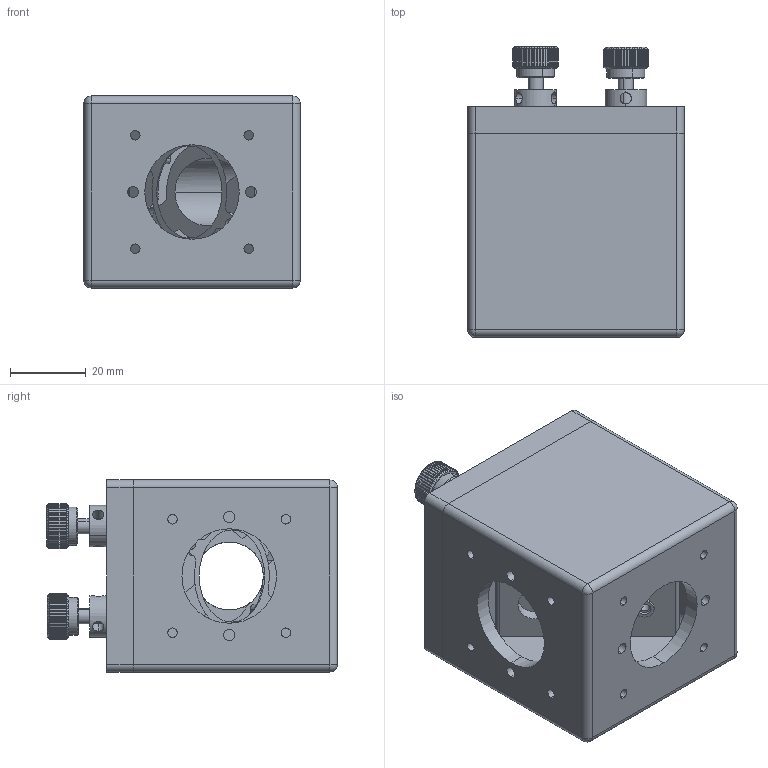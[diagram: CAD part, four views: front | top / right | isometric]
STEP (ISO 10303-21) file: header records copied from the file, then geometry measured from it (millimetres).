
FILE_DESCRIPTION (( 'STEP AP203' ), '1' );
FILE_NAME ('CM-26M05_01.STEP', '2017-01-06T10:44:23', ( 'user' ), ( '' ), 'SwSTEP 2.0', 'SolidWorks 2012', '' );
FILE_SCHEMA (( 'CONFIG_CONTROL_DESIGN' ));
Length unit declared in the file: millimetre
Products named in the file (1): CM-26M05_01
Bounding box: 57.2 x 76.89 x 50.8 mm (x, y, z)
Surface area: 37181.8 mm2 (no closed solid volume)
Topology: 0 solids, 18 shells, 472 faces, 1580 edges, 1072 vertices
Faces by surface type: cylinder 236, plane 214, cone 16, sphere 6
Entity records: 18242 total; most frequent: CARTESIAN_POINT 4935, ORIENTED_EDGE 2731, DIRECTION 2599, EDGE_CURVE 1571, VERTEX_POINT 1069, AXIS2_PLACEMENT_3D 991, LINE 617, VECTOR 617
